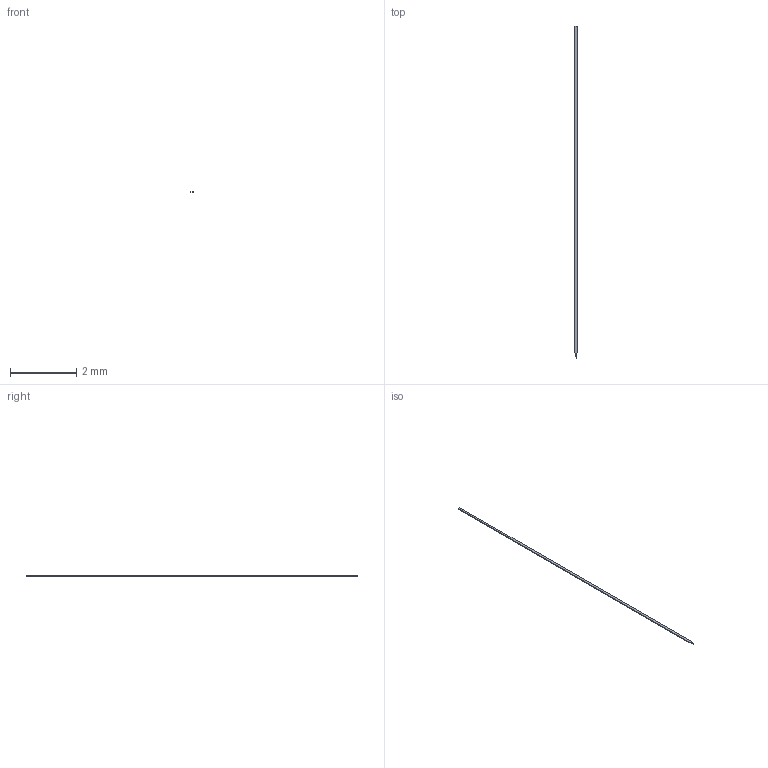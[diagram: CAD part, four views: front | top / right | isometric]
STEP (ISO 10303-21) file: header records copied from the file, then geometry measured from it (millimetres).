
FILE_DESCRIPTION(('Open CASCADE Model'),'2;1');
FILE_NAME('Open CASCADE Shape Model','2026-10-25T16:03:37',('Author'),( 'Open CASCADE'),'Open CASCADE STEP processor 7.9','Open CASCADE 7.9' ,'Unknown');
FILE_SCHEMA(('AUTOMOTIVE_DESIGN { 1 0 10303 214 1 1 1 1 }'));
Length unit declared in the file: millimetre
Products named in the file (1): Open CASCADE STEP translator 7.9 1
Bounding box: 0.07 x 10 x 0.02 mm (x, y, z)
Volume: 0 mm3; surface area: 1.9 mm2
Topology: 1 solids, 1 shells, 7 faces, 15 edges, 10 vertices
Faces by surface type: plane 7
Entity records: 394 total; most frequent: CARTESIAN_POINT 63, DIRECTION 61, LINE 45, VECTOR 45, ORIENTED_EDGE 30, PCURVE 30, DEFINITIONAL_REPRESENTATION 30, EDGE_CURVE 15
